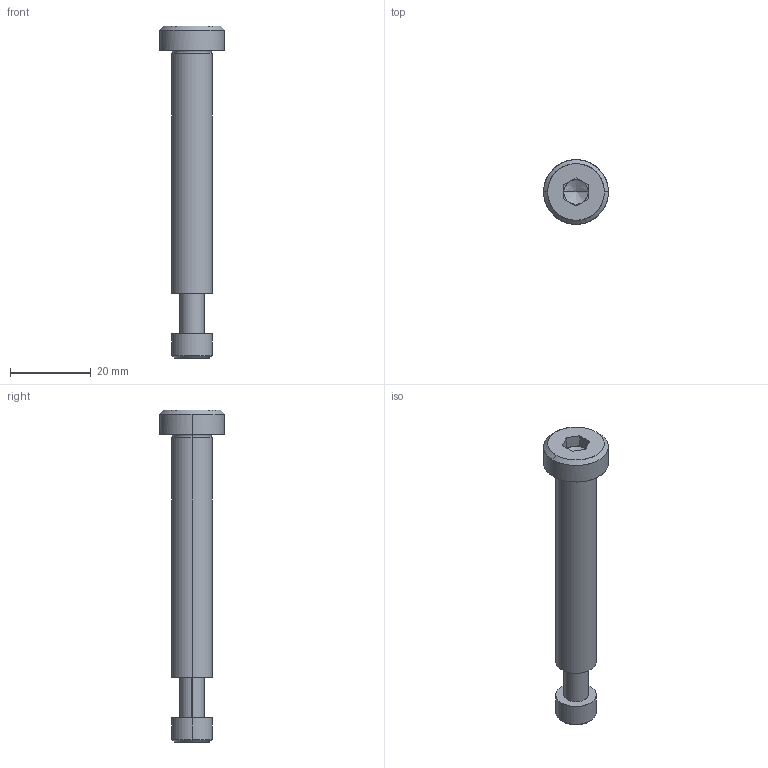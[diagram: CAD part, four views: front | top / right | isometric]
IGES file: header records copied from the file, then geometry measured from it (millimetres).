
Global section: file name: E:\UnigraphicsGraphicData\MISUMI_PRESS-PARTS\IGES\3d_sbtc10-60_05096_r00.igs; native system: NX V5.0; preprocessor: UGS NX IGES V5.0; author: MISUMI; date: 20110105.162443; units: millimetre
Bounding box: 16 x 16 x 82 mm (x, y, z)
Surface area: 3794.3 mm2 (no closed solid volume)
Topology: 0 solids, 0 shells, 52 faces, 280 edges, 276 vertices
Faces by surface type: bspline 52
